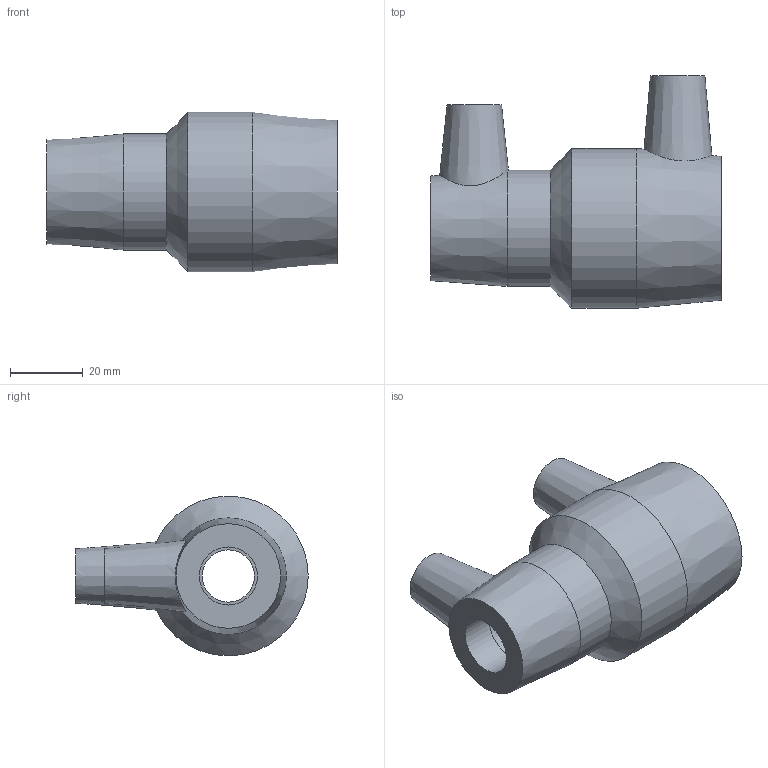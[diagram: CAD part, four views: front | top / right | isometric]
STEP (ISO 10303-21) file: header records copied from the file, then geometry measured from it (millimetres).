
FILE_DESCRIPTION(/* description */ ('PLASSON REDUCING COUPLER 32-16'),/* implementation_level */ '2;1');
FILE_NAME(/* name */ 'C:\Users\Lenora\Dropbox\99-16-3568-Processing\ElectroFusion Fittings\491104\491104032016.ipt.stp',/* time_stamp */ '2020-12-07T22:24:01+03:00',/* author */ ('KIM'),/* organization */ (''),/* preprocessor_version */ 'ST-DEVELOPER v17.2',/* originating_system */ 'Autodesk Inventor 2019',/* authorisation */ '');
FILE_SCHEMA (('AUTOMOTIVE_DESIGN { 1 0 10303 214 3 1 1 }'));
Length unit declared in the file: millimetre
Products named in the file (1): 491104032016
Bounding box: 80 x 64 x 44 mm (x, y, z)
Volume: 57080.5 mm3; surface area: 20572.1 mm2
Topology: 1 solids, 1 shells, 32 faces, 75 edges, 54 vertices
Faces by surface type: plane 12, cylinder 11, cone 9
Full cylindrical faces by diameter (mm): 4 x2, 10 x2, 14.4 x1, 16 x2, 32 x3, 44 x1
Entity records: 1076 total; most frequent: CARTESIAN_POINT 240, DIRECTION 185, ORIENTED_EDGE 150, AXIS2_PLACEMENT_3D 83, EDGE_CURVE 75, VERTEX_POINT 54, CIRCLE 50, EDGE_LOOP 43
